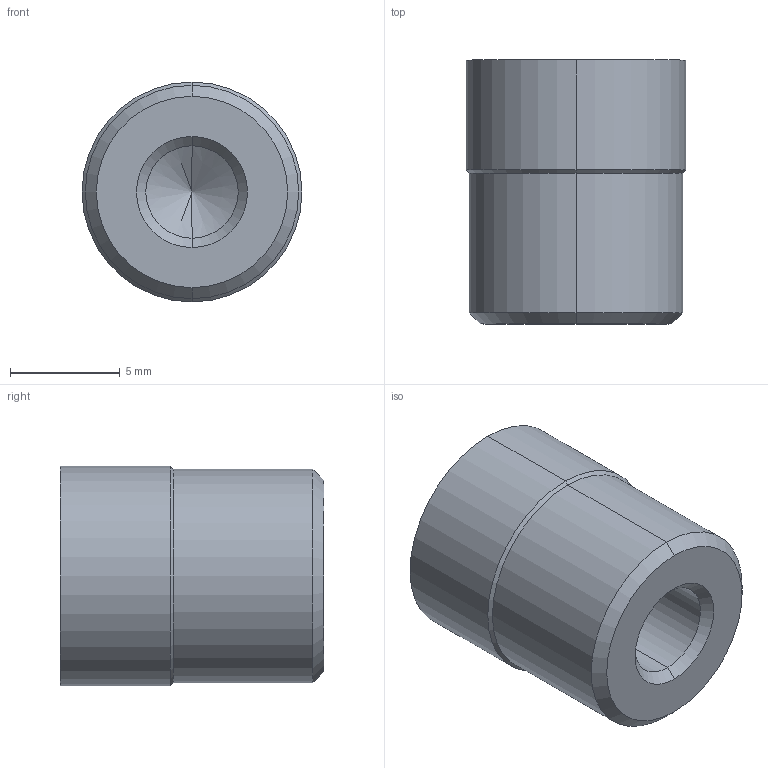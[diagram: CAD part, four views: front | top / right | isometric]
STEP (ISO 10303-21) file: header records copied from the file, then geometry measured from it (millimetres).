
FILE_DESCRIPTION (( 'STEP AP203' ), '1' );
FILE_NAME ('IR-10PEHD.STEP', '2017-09-11T11:48:49', ( 'Balzi' ), ( '' ), 'SwSTEP 2.0', 'SolidWorks 2017', '' );
FILE_SCHEMA (( 'CONFIG_CONTROL_DESIGN' ));
Length unit declared in the file: millimetre
Products named in the file (1): IR-10PEHD
Bounding box: 10 x 12 x 10 mm (x, y, z)
Volume: 776.5 mm3; surface area: 648.6 mm2
Topology: 1 solids, 1 shells, 244 faces, 677 edges, 447 vertices
Faces by surface type: plane 216, cylinder 20, cone 8
Entity records: 7728 total; most frequent: CARTESIAN_POINT 1367, ORIENTED_EDGE 1350, DIRECTION 1209, EDGE_CURVE 675, LINE 631, VECTOR 631, VERTEX_POINT 447, AXIS2_PLACEMENT_3D 289
